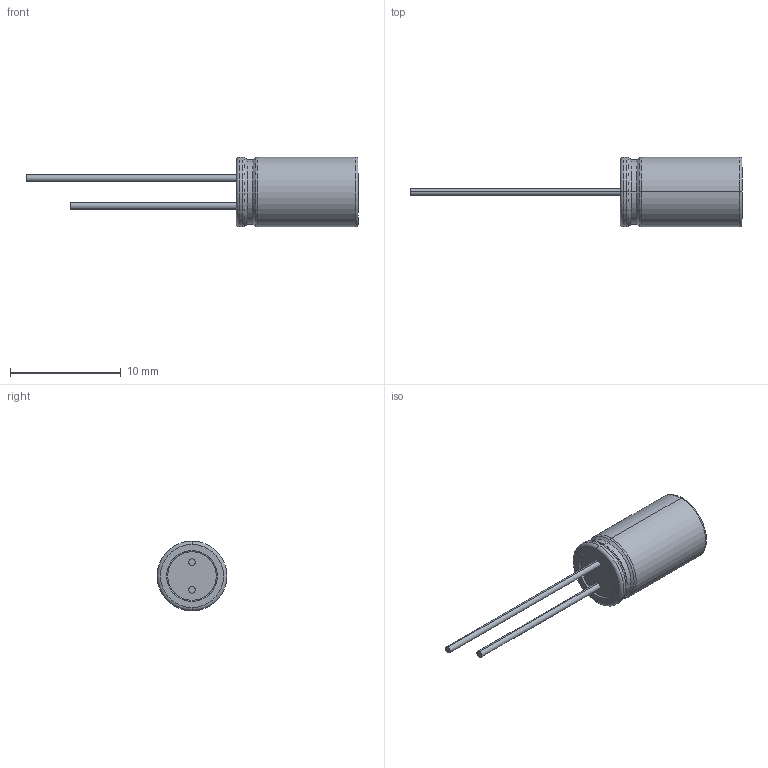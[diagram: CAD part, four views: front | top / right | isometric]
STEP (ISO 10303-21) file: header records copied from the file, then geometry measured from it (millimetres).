
FILE_DESCRIPTION((''),'2;1');
FILE_NAME('POLYMER-RADIAL63X11','2020-05-30T',('xy'),(''),'PRO/ENGINEER BY PARAMETRIC TECHNOLOGY CORPORATION, 2009380','PRO/ENGINEER BY PARAMETRIC TECHNOLOGY CORPORATION, 2009380','');
FILE_SCHEMA(('CONFIG_CONTROL_DESIGN'));
Length unit declared in the file: millimetre
Products named in the file (1): POLYMER-RADIAL63X11
Bounding box: 30 x 6.3 x 6.3 mm (x, y, z)
Volume: 345.2 mm3; surface area: 345 mm2
Topology: 1 solids, 1 shells, 415 faces, 1146 edges, 758 vertices
Faces by surface type: plane 387, cylinder 13, torus 11, cone 4
Entity records: 13005 total; most frequent: CARTESIAN_POINT 2328, ORIENTED_EDGE 2292, DIRECTION 2020, EDGE_CURVE 1146, VECTOR 1098, LINE 1098, VERTEX_POINT 758, AXIS2_PLACEMENT_3D 461
